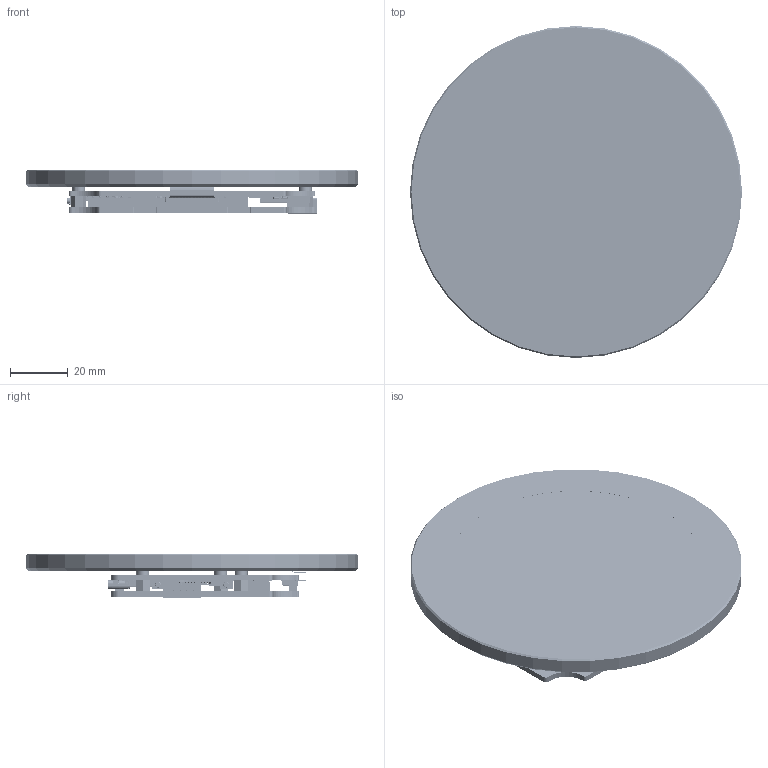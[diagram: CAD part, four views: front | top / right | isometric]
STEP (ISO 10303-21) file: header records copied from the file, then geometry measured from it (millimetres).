
FILE_DESCRIPTION((''),'2;1');
FILE_NAME('ESP32-P4-WIFI6-TOUCH-LCD-3_4C_ASM','2026-04-15T19:41:10',('xiaojisheng'),(''),'CREO PARAMETRIC BY PTC INC, 2021063','CREO PARAMETRIC BY PTC INC, 2021063','');
FILE_SCHEMA(('CONFIG_CONTROL_DESIGN','SHAPE_APPEARANCE_LAYERS_GROUPS'));
Products named in the file (594): 3_4INCH-DSI-LCD-C_CASE; BOARD-1189; HEADER-SMD-F-2_54X40; J8_ASM; USER_LIBRARY-RES_0603-0201_1; USER_LIBRARY-RES_0603-0201_2; USER_LIBRARY-RES_0603-0201_3; USER_LIBRARY-RES_0603-0201_4; USER_LIBRARY-RES_0603-0201_ASM; R62_ASM; R61_ASM; _2_1_20001; 5_1_2_A; _7_AF0; R_0402-3099_AF0_ASM_ASM; R_0402-5222_AF0_ASM_ASM; R0402_ASM; R37_ASM; R36_ASM; USER_LIBRARY-0201_0603M__CAP_1; USER_LIBRARY-0201_0603M__CAP_2; USER_LIBRARY-0201_0603M__CAP_3; USER_LIBRARY-0201_0603M__CAP_ASM; C70_ASM; EXTRUDED-145546; 1194072032_ASM; EXTRUDED-145918; 1194072288_ASM; CYLINDER-146295; 1106509168_ASM; EXTRUDED-146446; 1194072544_ASM; CYLINDER-146823; 1106508088_ASM; J1_ASM; USER_LIBRARY-SOT363-2; U11_ASM; EXTRUDED-153355; 1194072800_ASM; TVS2_ASM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
Assembly tree (952 placements, depth 12):
  ESP32-P4-WIFI6-TOUCH-LCD-3_4C_ASM
    3_4INCH-DSI-LCD-C_CASE
    ESP32-P4-WIFI6-TOUCH-LCD-XC-PCB_ASM
      ESP32-P4-WIFI6-TOUCH-LCD-XC_ASM
        PCB_ASM
          BOARD-1189
          J8_ASM
            HEADER-SMD-F-2_54X40
          R62_ASM
            USER_LIBRARY-RES_0603-0201_ASM
              USER_LIBRARY-RES_0603-0201_1
              USER_LIBRARY-RES_0603-0201_2
              USER_LIBRARY-RES_0603-0201_3
              USER_LIBRARY-RES_0603-0201_4
          R61_ASM
            USER_LIBRARY-RES_0603-0201_ASM
              USER_LIBRARY-RES_0603-0201_1
              USER_LIBRARY-RES_0603-0201_2
              USER_LIBRARY-RES_0603-0201_3
              USER_LIBRARY-RES_0603-0201_4
          R37_ASM
            R0402_ASM
              R_0402-5222_AF0_ASM_ASM
                R_0402-3099_AF0_ASM_ASM
                  _2_1_20001
                  5_1_2_A
                  _7_AF0
          R36_ASM
            R0402_ASM
              R_0402-5222_AF0_ASM_ASM
                R_0402-3099_AF0_ASM_ASM
                  _2_1_20001
                  5_1_2_A
                  _7_AF0
          C70_ASM
            USER_LIBRARY-0201_0603M__CAP_ASM
              USER_LIBRARY-0201_0603M__CAP_1
              USER_LIBRARY-0201_0603M__CAP_2
              USER_LIBRARY-0201_0603M__CAP_3
          J1_ASM
            1194072032_ASM  x2
              EXTRUDED-145546
            1194072288_ASM  x2
              EXTRUDED-145918
            1106509168_ASM  x2
              CYLINDER-146295
            1194072544_ASM
              EXTRUDED-146446
            1106508088_ASM  x2
              CYLINDER-146823
          U11_ASM
            USER_LIBRARY-SOT363-2
          TVS2_ASM
            1194072800_ASM
              EXTRUDED-153355
          R60_ASM
            USER_LIBRARY-RES_0603-0201_ASM
              USER_LIBRARY-RES_0603-0201_1
              USER_LIBRARY-RES_0603-0201_2
              USER_LIBRARY-RES_0603-0201_3
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Bounding box: 115 x 115 x 15.5 mm (x, y, z)
Volume: 72721.2 mm3; surface area: 92688 mm2
Topology: 1165 solids, 1195 shells, 55903 faces, 146004 edges, 94208 vertices
Faces by surface type: plane 34986, extrusion 11979, cylinder 6934, sphere 1560, cone 174, torus 158, bspline 112
Entity records: 579645 total; most frequent: CARTESIAN_POINT 122788, ORIENTED_EDGE 71604, DIRECTION 66115, EDGE_CURVE 35815, PRESENTATION_STYLE_ASSIGNMENT 31707, STYLED_ITEM 29577, VECTOR 29443, LINE 28157
